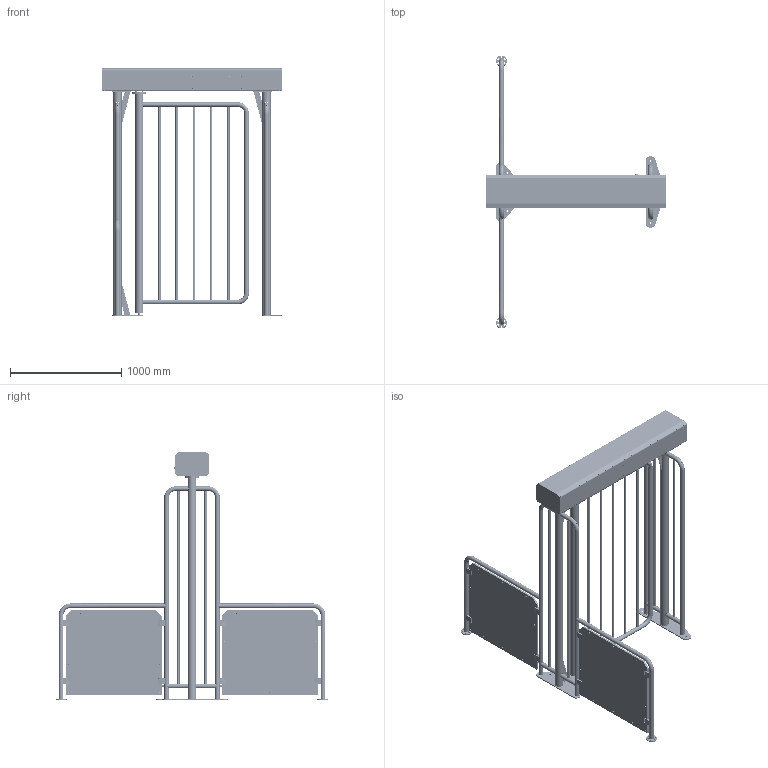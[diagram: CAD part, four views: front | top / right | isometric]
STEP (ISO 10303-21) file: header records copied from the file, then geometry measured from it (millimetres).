
FILE_DESCRIPTION(/* description */ ('Unknown'),/* implementation_level */ '2;1');
FILE_NAME(/* name */ '55870030_00',/* time_stamp */ '2026-04-24T07:29:57+02:00',/* author */ ('Unknown'),/* organization */ ('Unknown'),/* preprocessor_version */ 'ST-DEVELOPER v18.104',/* originating_system */ 'Solid Edge',/* authorisation */ 'Unknown');
FILE_SCHEMA (('AUTOMOTIVE_DESIGN {1 0 10303 214 3 1 1}'));
Products named in the file (1): 55870030
Bounding box: 1623 x 2457.6 x 2235.39 mm (x, y, z)
Volume: 43818010.9 mm3; surface area: 19024176.2 mm2
Topology: 221 solids, 221 shells, 8735 faces, 20465 edges, 12361 vertices
Faces by surface type: plane 3252, cylinder 3013, torus 1244, cone 837, sphere 249, bspline 140
Full cylindrical faces by diameter (mm): 0.1 x12, 1 x1, 2 x1, 3.3 x1, 4 x6, 4.2 x5, 4.3 x2, 4.4 x1, 4.5 x2, 4.773 x24, 4.917 x16, 5 x29, 5.5 x14, 5.9 x2, 6 x73, 6.242 x24, 6.4 x40, 6.5 x1, 6.8 x3, 7 x53, 7.5 x2, 8 x17, 8.16 x1, 8.376 x4, 8.5 x29, 8.66 x24, 9 x2, 10 x13, 10.106 x13, 10.156 x5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
Entity records: 262578 total; most frequent: CARTESIAN_POINT 65512, DIRECTION 41832, ORIENTED_EDGE 38000, EDGE_CURVE 19000, AXIS2_PLACEMENT_3D 16571, VERTEX_POINT 11987, FACE_BOUND 10681, EDGE_LOOP 10674
